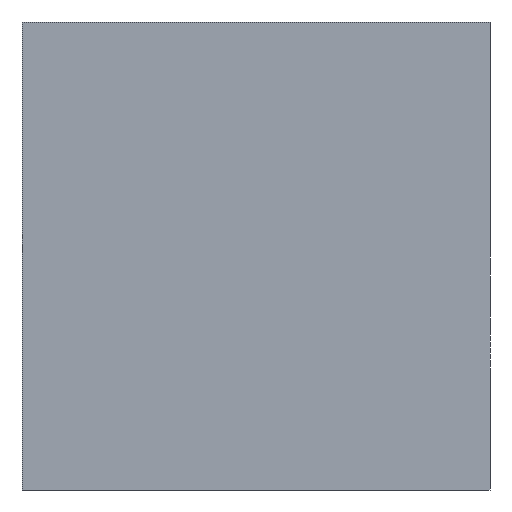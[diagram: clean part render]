
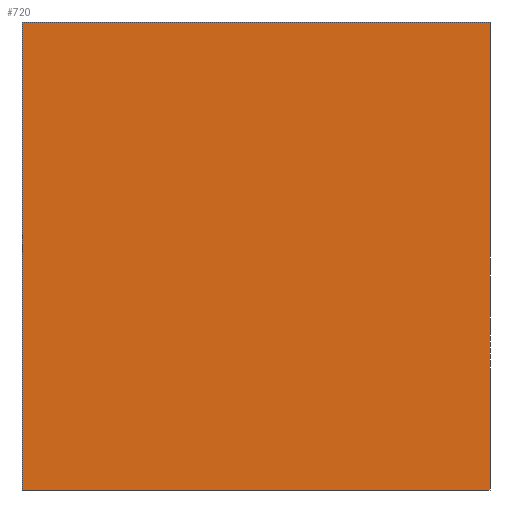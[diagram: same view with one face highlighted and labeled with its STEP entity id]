
A CAD part, left-side view. The second image highlights one B-rep face of the part: STEP entity #720.
In plain terms, the highlighted planar face has unit normal (-1, 0, 0).
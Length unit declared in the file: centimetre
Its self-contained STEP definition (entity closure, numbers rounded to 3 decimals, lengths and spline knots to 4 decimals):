
#2 = DIRECTION ( 'NONE',  ( 0., -1., 0. ) ) ;
#7 = VERTEX_POINT ( 'NONE', #377 ) ;
#108 = EDGE_CURVE ( 'NONE', #716, #843, #282, .T. ) ;
#111 = VECTOR ( 'NONE', #2, 100. ) ;
#129 = ORIENTED_EDGE ( 'NONE', *, *, #358, .F. ) ;
#192 = CARTESIAN_POINT ( 'NONE',  ( 0., 0., 1000. ) ) ;
#243 = CARTESIAN_POINT ( 'NONE',  ( 0., 0., 1000. ) ) ;
#264 = DIRECTION ( 'NONE',  ( 0., 0., -1. ) ) ;
#278 = LINE ( 'NONE', #439, #555 ) ;
#281 = ORIENTED_EDGE ( 'NONE', *, *, #108, .T. ) ;
#282 = LINE ( 'NONE', #634, #111 ) ;
#358 = EDGE_CURVE ( 'NONE', #7, #531, #368, .T. ) ;
#368 = LINE ( 'NONE', #649, #643 ) ;
#377 = CARTESIAN_POINT ( 'NONE',  ( 0., 1000., 1000. ) ) ;
#415 = FACE_OUTER_BOUND ( 'NONE', #807, .T. ) ;
#439 = CARTESIAN_POINT ( 'NONE',  ( 0., 1000., 1000. ) ) ;
#451 = ORIENTED_EDGE ( 'NONE', *, *, #897, .F. ) ;
#469 = VECTOR ( 'NONE', #264, 100. ) ;
#497 = PLANE ( 'NONE',  #687 ) ;
#531 = VERTEX_POINT ( 'NONE', #243 ) ;
#550 = LINE ( 'NONE', #192, #469 ) ;
#555 = VECTOR ( 'NONE', #694, 100. ) ;
#593 = DIRECTION ( 'NONE',  ( 0., -1., 0. ) ) ;
#626 = ORIENTED_EDGE ( 'NONE', *, *, #792, .T. ) ;
#634 = CARTESIAN_POINT ( 'NONE',  ( 0., 1000., 0. ) ) ;
#643 = VECTOR ( 'NONE', #593, 100. ) ;
#649 = CARTESIAN_POINT ( 'NONE',  ( 0., 1000., 1000. ) ) ;
#684 = DIRECTION ( 'NONE',  ( 1., 0., 0. ) ) ;
#687 = AXIS2_PLACEMENT_3D ( 'NONE', #693, #684, #812 ) ;
#693 = CARTESIAN_POINT ( 'NONE',  ( 0., 1000., 1000. ) ) ;
#694 = DIRECTION ( 'NONE',  ( 0., 0., -1. ) ) ;
#716 = VERTEX_POINT ( 'NONE', #904 ) ;
#720 = ADVANCED_FACE ( 'NONE', ( #415 ), #497, .F. ) ;
#792 = EDGE_CURVE ( 'NONE', #7, #716, #278, .T. ) ;
#807 = EDGE_LOOP ( 'NONE', ( #281, #451, #129, #626 ) ) ;
#812 = DIRECTION ( 'NONE',  ( 0., 0., -1. ) ) ;
#843 = VERTEX_POINT ( 'NONE', #850 ) ;
#850 = CARTESIAN_POINT ( 'NONE',  ( 0., 0., 0. ) ) ;
#897 = EDGE_CURVE ( 'NONE', #531, #843, #550, .T. ) ;
#904 = CARTESIAN_POINT ( 'NONE',  ( 0., 1000., 0. ) ) ;
